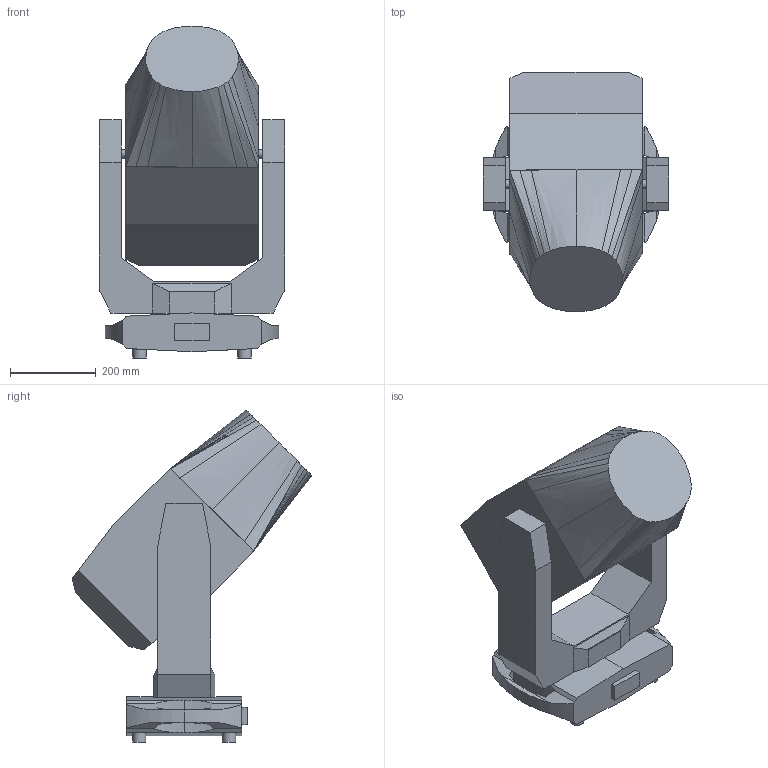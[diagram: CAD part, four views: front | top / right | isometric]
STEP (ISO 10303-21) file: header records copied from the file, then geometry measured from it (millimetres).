
FILE_DESCRIPTION(/* description */ (''),/* implementation_level */ '2;1');
FILE_NAME(/* name */ 'D:/dgooch/Documents/CADENG/PRO/Maverick Silens 2 Profile/45/3D/Maverick Silens 2 Profile_45.step',/* time_stamp */ '2019-09-06T08:50:38-04:00',/* author */ (''),/* organization */ (''),/* preprocessor_version */ 'ST-DEVELOPER v18',/* originating_system */ 'Autodesk Translation Framework v8.6.0.1094',/* authorisation */ '');
FILE_SCHEMA (('AUTOMOTIVE_DESIGN { 1 0 10303 214 3 1 1 }'));
Length unit declared in the file: millimetre
Products named in the file (3): Maverick Silens 2 Profile; Head; Base
Assembly tree (2 placements, depth 2):
  Maverick Silens 2 Profile
    Head
    Base
Bounding box: 432.79 x 560.66 x 776.1 mm (x, y, z)
Volume: 59098767.1 mm3; surface area: 1495333.6 mm2
Topology: 2 solids, 2 shells, 118 faces, 334 edges, 221 vertices
Faces by surface type: plane 76, bspline 24, cylinder 18
Full cylindrical faces by diameter (mm): 20 x2, 31 x4
Entity records: 5529 total; most frequent: CARTESIAN_POINT 2452, ORIENTED_EDGE 668, DIRECTION 556, EDGE_CURVE 334, LINE 238, VECTOR 238, VERTEX_POINT 221, AXIS2_PLACEMENT_3D 159
